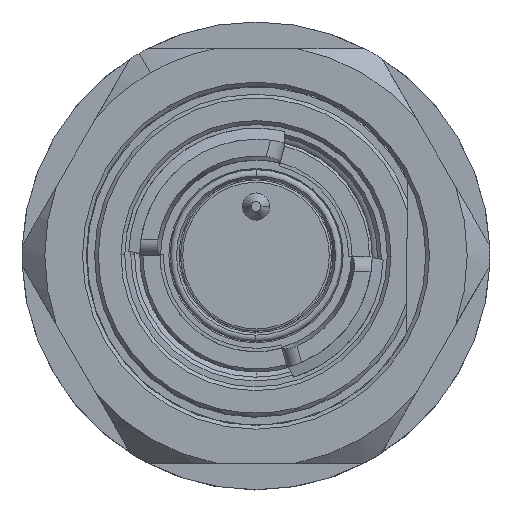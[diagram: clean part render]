
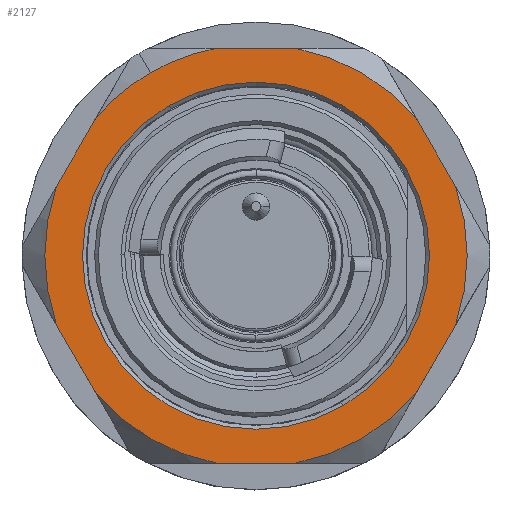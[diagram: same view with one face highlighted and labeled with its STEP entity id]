
A CAD part, top view. The second image highlights one B-rep face of the part: STEP entity #2127.
In plain terms, the highlighted planar face has unit normal (0, 0, 1).
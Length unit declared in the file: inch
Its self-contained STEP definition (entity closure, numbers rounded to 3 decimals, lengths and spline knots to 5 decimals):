
#361 = EDGE_CURVE ( 'NONE', #16382, #17532, #15944, .T. ) ;
#381 = DIRECTION ( 'NONE',  ( 0.5, -0.866, 0. ) ) ;
#420 = EDGE_LOOP ( 'NONE', ( #454, #9108 ) ) ;
#454 = ORIENTED_EDGE ( 'NONE', *, *, #361, .F. ) ;
#772 = EDGE_CURVE ( 'NONE', #6834, #13528, #25872, .T. ) ;
#1317 = DIRECTION ( 'NONE',  ( -0.5, 0.866, 0. ) ) ;
#1339 = DIRECTION ( 'NONE',  ( 0., 0., 1. ) ) ;
#1348 = EDGE_CURVE ( 'NONE', #13660, #20225, #10518, .T. ) ;
#1362 = DIRECTION ( 'NONE',  ( 0.5, -0.866, 0. ) ) ;
#1429 = EDGE_CURVE ( 'NONE', #6834, #6468, #25250, .T. ) ;
#2034 = CARTESIAN_POINT ( 'NONE',  ( 0.3921, 0.54134, -0.30913 ) ) ;
#2127 = ADVANCED_FACE ( 'NONE', ( #15617, #11395 ), #3437, .F. ) ;
#2325 = CIRCLE ( 'NONE', #24698, 0.55118 ) ;
#2459 = CARTESIAN_POINT ( 'NONE',  ( -0.1037, -0.54134, -0.30913 ) ) ;
#2465 = CARTESIAN_POINT ( 'NONE',  ( 0.22638, -0.3921, -0.30913 ) ) ;
#2490 = LINE ( 'NONE', #10452, #15545 ) ;
#2893 = EDGE_CURVE ( 'NONE', #14373, #6468, #2490, .T. ) ;
#2974 = CARTESIAN_POINT ( 'NONE',  ( 0., 0., -0.30913 ) ) ;
#3289 = DIRECTION ( 'NONE',  ( 0., 0., 1. ) ) ;
#3301 = AXIS2_PLACEMENT_3D ( 'NONE', #10415, #24798, #8807 ) ;
#3437 = PLANE ( 'NONE',  #7457 ) ;
#3485 = EDGE_CURVE ( 'NONE', #15407, #18720, #9848, .T. ) ;
#3754 = CARTESIAN_POINT ( 'NONE',  ( -0.41696, -0.36047, -0.30913 ) ) ;
#4011 = CARTESIAN_POINT ( 'NONE',  ( 0., 0., -0.30913 ) ) ;
#4167 = ORIENTED_EDGE ( 'NONE', *, *, #1429, .T. ) ;
#4997 = CIRCLE ( 'NONE', #10519, 0.55118 ) ;
#5852 = ORIENTED_EDGE ( 'NONE', *, *, #22054, .T. ) ;
#6085 = LINE ( 'NONE', #10355, #6706 ) ;
#6265 = CARTESIAN_POINT ( 'NONE',  ( 0., 0., -0.30913 ) ) ;
#6468 = VERTEX_POINT ( 'NONE', #11377 ) ;
#6598 = VECTOR ( 'NONE', #12649, 39.37008 ) ;
#6706 = VECTOR ( 'NONE', #14153, 39.37008 ) ;
#6834 = VERTEX_POINT ( 'NONE', #16362 ) ;
#7118 = LINE ( 'NONE', #13328, #15564 ) ;
#7133 = EDGE_CURVE ( 'NONE', #19816, #16461, #19688, .T. ) ;
#7457 = AXIS2_PLACEMENT_3D ( 'NONE', #19424, #25498, #1317 ) ;
#7732 = DIRECTION ( 'NONE',  ( 0.5, -0.866, 0. ) ) ;
#7782 = VERTEX_POINT ( 'NONE', #20957 ) ;
#8091 = ORIENTED_EDGE ( 'NONE', *, *, #21180, .T. ) ;
#8120 = CARTESIAN_POINT ( 'NONE',  ( -0.22638, 0.3921, -0.30913 ) ) ;
#8343 = ORIENTED_EDGE ( 'NONE', *, *, #22050, .F. ) ;
#8807 = DIRECTION ( 'NONE',  ( 0.5, -0.866, 0. ) ) ;
#8830 = ORIENTED_EDGE ( 'NONE', *, *, #7133, .T. ) ;
#8869 = CARTESIAN_POINT ( 'NONE',  ( -0.52066, 0.18086, -0.30913 ) ) ;
#8879 = ORIENTED_EDGE ( 'NONE', *, *, #3485, .F. ) ;
#8911 = DIRECTION ( 'NONE',  ( 0., 0., 1. ) ) ;
#9108 = ORIENTED_EDGE ( 'NONE', *, *, #13962, .F. ) ;
#9313 = EDGE_LOOP ( 'NONE', ( #8343, #25790, #24528, #4167, #23905, #5852, #8879, #8091, #14446, #13062, #8830, #25889, #13744 ) ) ;
#9747 = CIRCLE ( 'NONE', #14387, 0.55118 ) ;
#9848 = LINE ( 'NONE', #2034, #24870 ) ;
#10355 = CARTESIAN_POINT ( 'NONE',  ( -0.46881, -0.27067, -0.30913 ) ) ;
#10415 = CARTESIAN_POINT ( 'NONE',  ( 0., 0., -0.30913 ) ) ;
#10452 = CARTESIAN_POINT ( 'NONE',  ( 0.46881, 0.27067, -0.30913 ) ) ;
#10518 = CIRCLE ( 'NONE', #3301, 0.55118 ) ;
#10519 = AXIS2_PLACEMENT_3D ( 'NONE', #19148, #21516, #23263 ) ;
#10773 = DIRECTION ( 'NONE',  ( 0.5, -0.866, 0. ) ) ;
#11377 = CARTESIAN_POINT ( 'NONE',  ( 0.52066, 0.18086, -0.30913 ) ) ;
#11395 = FACE_OUTER_BOUND ( 'NONE', #9313, .T. ) ;
#11453 = AXIS2_PLACEMENT_3D ( 'NONE', #6265, #18442, #16478 ) ;
#11867 = CIRCLE ( 'NONE', #11453, 0.45276 ) ;
#11981 = VERTEX_POINT ( 'NONE', #20820 ) ;
#12649 = DIRECTION ( 'NONE',  ( 0.5, 0.866, 0. ) ) ;
#12796 = CARTESIAN_POINT ( 'NONE',  ( -0.52066, -0.18086, -0.30913 ) ) ;
#13062 = ORIENTED_EDGE ( 'NONE', *, *, #20511, .F. ) ;
#13255 = DIRECTION ( 'NONE',  ( 0.5, -0.866, 0. ) ) ;
#13328 = CARTESIAN_POINT ( 'NONE',  ( 0.3921, -0.54134, -0.30913 ) ) ;
#13339 = DIRECTION ( 'NONE',  ( 0.5, -0.866, 0. ) ) ;
#13528 = VERTEX_POINT ( 'NONE', #18078 ) ;
#13660 = VERTEX_POINT ( 'NONE', #3754 ) ;
#13689 = CARTESIAN_POINT ( 'NONE',  ( 0., 0., -0.30913 ) ) ;
#13744 = ORIENTED_EDGE ( 'NONE', *, *, #1348, .T. ) ;
#13962 = EDGE_CURVE ( 'NONE', #17532, #16382, #11867, .T. ) ;
#13972 = CARTESIAN_POINT ( 'NONE',  ( -0.1037, 0.54134, -0.30913 ) ) ;
#14153 = DIRECTION ( 'NONE',  ( -0.5, 0.866, 0. ) ) ;
#14373 = VERTEX_POINT ( 'NONE', #18794 ) ;
#14387 = AXIS2_PLACEMENT_3D ( 'NONE', #13689, #15555, #7732 ) ;
#14446 = ORIENTED_EDGE ( 'NONE', *, *, #18688, .T. ) ;
#14802 = LINE ( 'NONE', #18878, #6598 ) ;
#15407 = VERTEX_POINT ( 'NONE', #13972 ) ;
#15458 = CARTESIAN_POINT ( 'NONE',  ( 0., 0., -0.30913 ) ) ;
#15545 = VECTOR ( 'NONE', #381, 39.37008 ) ;
#15546 = VECTOR ( 'NONE', #23630, 39.37008 ) ;
#15555 = DIRECTION ( 'NONE',  ( 0., 0., 1. ) ) ;
#15564 = VECTOR ( 'NONE', #25228, 39.37008 ) ;
#15617 = FACE_BOUND ( 'NONE', #420, .T. ) ;
#15672 = DIRECTION ( 'NONE',  ( 1., 0., 0. ) ) ;
#15932 = DIRECTION ( 'NONE',  ( 0., 0., 1. ) ) ;
#15941 = EDGE_CURVE ( 'NONE', #11981, #13528, #23726, .T. ) ;
#15944 = CIRCLE ( 'NONE', #18472, 0.45276 ) ;
#16362 = CARTESIAN_POINT ( 'NONE',  ( 0.52066, -0.18086, -0.30913 ) ) ;
#16382 = VERTEX_POINT ( 'NONE', #2465 ) ;
#16461 = VERTEX_POINT ( 'NONE', #12796 ) ;
#16478 = DIRECTION ( 'NONE',  ( 0.5, -0.866, 0. ) ) ;
#16982 = CARTESIAN_POINT ( 'NONE',  ( 0.1037, 0.54134, -0.30913 ) ) ;
#17379 = DIRECTION ( 'NONE',  ( 0., 0., 1. ) ) ;
#17405 = AXIS2_PLACEMENT_3D ( 'NONE', #15458, #3289, #13339 ) ;
#17532 = VERTEX_POINT ( 'NONE', #8120 ) ;
#17697 = CARTESIAN_POINT ( 'NONE',  ( -0.41696, 0.36047, -0.30913 ) ) ;
#18078 = CARTESIAN_POINT ( 'NONE',  ( 0.41696, -0.36047, -0.30913 ) ) ;
#18092 = AXIS2_PLACEMENT_3D ( 'NONE', #2974, #17379, #1362 ) ;
#18442 = DIRECTION ( 'NONE',  ( 0., 0., 1. ) ) ;
#18472 = AXIS2_PLACEMENT_3D ( 'NONE', #19317, #1339, #13255 ) ;
#18688 = EDGE_CURVE ( 'NONE', #7782, #23176, #2325, .T. ) ;
#18720 = VERTEX_POINT ( 'NONE', #16982 ) ;
#18794 = CARTESIAN_POINT ( 'NONE',  ( 0.41696, 0.36047, -0.30913 ) ) ;
#18878 = CARTESIAN_POINT ( 'NONE',  ( -0.27276, 0.61024, -0.30913 ) ) ;
#19148 = CARTESIAN_POINT ( 'NONE',  ( 0., 0., -0.30913 ) ) ;
#19246 = AXIS2_PLACEMENT_3D ( 'NONE', #4011, #15932, #26080 ) ;
#19317 = CARTESIAN_POINT ( 'NONE',  ( 0., 0., -0.30913 ) ) ;
#19424 = CARTESIAN_POINT ( 'NONE',  ( 0.3921, 0.22638, -0.30913 ) ) ;
#19688 = CIRCLE ( 'NONE', #19246, 0.55118 ) ;
#19816 = VERTEX_POINT ( 'NONE', #8869 ) ;
#20186 = CARTESIAN_POINT ( 'NONE',  ( 0.66486, 0.0689, -0.30913 ) ) ;
#20225 = VERTEX_POINT ( 'NONE', #2459 ) ;
#20511 = EDGE_CURVE ( 'NONE', #19816, #23176, #14802, .T. ) ;
#20820 = CARTESIAN_POINT ( 'NONE',  ( 0.1037, -0.54134, -0.30913 ) ) ;
#20957 = CARTESIAN_POINT ( 'NONE',  ( -0.27559, 0.47734, -0.30913 ) ) ;
#21180 = EDGE_CURVE ( 'NONE', #15407, #7782, #9747, .T. ) ;
#21516 = DIRECTION ( 'NONE',  ( 0., 0., 1. ) ) ;
#22050 = EDGE_CURVE ( 'NONE', #11981, #20225, #7118, .T. ) ;
#22054 = EDGE_CURVE ( 'NONE', #14373, #18720, #4997, .T. ) ;
#22494 = EDGE_CURVE ( 'NONE', #13660, #16461, #6085, .T. ) ;
#23176 = VERTEX_POINT ( 'NONE', #17697 ) ;
#23263 = DIRECTION ( 'NONE',  ( 0.5, -0.866, 0. ) ) ;
#23630 = DIRECTION ( 'NONE',  ( -0.5, -0.866, 0. ) ) ;
#23726 = CIRCLE ( 'NONE', #17405, 0.55118 ) ;
#23905 = ORIENTED_EDGE ( 'NONE', *, *, #2893, .F. ) ;
#24528 = ORIENTED_EDGE ( 'NONE', *, *, #772, .F. ) ;
#24698 = AXIS2_PLACEMENT_3D ( 'NONE', #25272, #8911, #10773 ) ;
#24798 = DIRECTION ( 'NONE',  ( 0., 0., 1. ) ) ;
#24870 = VECTOR ( 'NONE', #15672, 39.37008 ) ;
#25228 = DIRECTION ( 'NONE',  ( -1., 0., 0. ) ) ;
#25250 = CIRCLE ( 'NONE', #18092, 0.55118 ) ;
#25272 = CARTESIAN_POINT ( 'NONE',  ( 0., 0., -0.30913 ) ) ;
#25498 = DIRECTION ( 'NONE',  ( 0., 0., -1. ) ) ;
#25790 = ORIENTED_EDGE ( 'NONE', *, *, #15941, .T. ) ;
#25872 = LINE ( 'NONE', #20186, #15546 ) ;
#25889 = ORIENTED_EDGE ( 'NONE', *, *, #22494, .F. ) ;
#26080 = DIRECTION ( 'NONE',  ( 0.5, -0.866, 0. ) ) ;
